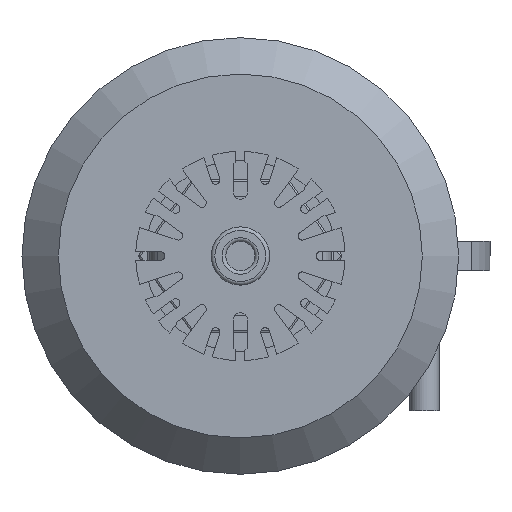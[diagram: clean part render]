
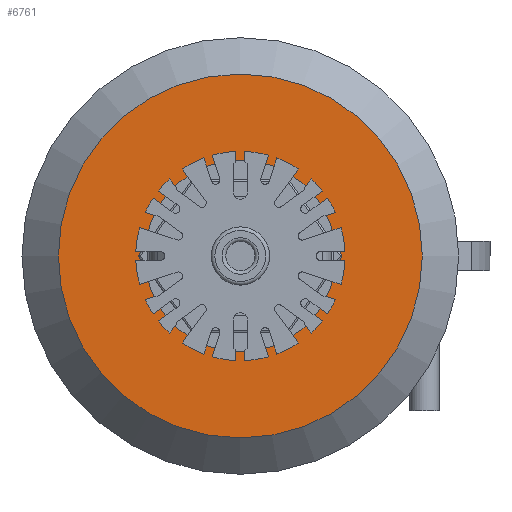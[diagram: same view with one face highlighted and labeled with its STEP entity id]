
A CAD part, front view. The second image highlights one B-rep face of the part: STEP entity #6761.
In plain terms, the highlighted planar face has unit normal (0, -1, 0).
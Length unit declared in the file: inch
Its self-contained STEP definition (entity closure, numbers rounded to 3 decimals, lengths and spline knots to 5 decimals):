
#292=FACE_BOUND('',#975,.T.);
#317=PLANE('',#7253);
#585=FACE_OUTER_BOUND('',#974,.T.);
#974=EDGE_LOOP('',(#4367,#4368));
#975=EDGE_LOOP('',(#4369,#4370));
#2283=CIRCLE('',#7251,1.25);
#2284=CIRCLE('',#7252,1.25);
#2285=CIRCLE('',#7254,0.6575);
#2286=CIRCLE('',#7255,0.6575);
#2696=VERTEX_POINT('',#9978);
#2697=VERTEX_POINT('',#9979);
#2698=VERTEX_POINT('',#9984);
#2699=VERTEX_POINT('',#9985);
#3343=EDGE_CURVE('',#2696,#2697,#2283,.T.);
#3344=EDGE_CURVE('',#2697,#2696,#2284,.T.);
#3346=EDGE_CURVE('',#2698,#2699,#2285,.T.);
#3347=EDGE_CURVE('',#2699,#2698,#2286,.T.);
#4367=ORIENTED_EDGE('',*,*,#3343,.T.);
#4368=ORIENTED_EDGE('',*,*,#3344,.T.);
#4369=ORIENTED_EDGE('',*,*,#3346,.F.);
#4370=ORIENTED_EDGE('',*,*,#3347,.F.);
#6761=ADVANCED_FACE('',(#585,#292),#317,.T.);
#7251=AXIS2_PLACEMENT_3D('',#9980,#8030,#8031);
#7252=AXIS2_PLACEMENT_3D('',#9981,#8032,#8033);
#7253=AXIS2_PLACEMENT_3D('',#9983,#8035,#8036);
#7254=AXIS2_PLACEMENT_3D('',#9986,#8037,#8038);
#7255=AXIS2_PLACEMENT_3D('',#9987,#8039,#8040);
#8030=DIRECTION('center_axis',(0.,-1.,0.));
#8031=DIRECTION('ref_axis',(1.,0.,0.));
#8032=DIRECTION('center_axis',(0.,-1.,0.));
#8033=DIRECTION('ref_axis',(1.,0.,0.));
#8035=DIRECTION('center_axis',(0.,-1.,0.));
#8036=DIRECTION('ref_axis',(-1.,0.,0.));
#8037=DIRECTION('center_axis',(0.,-1.,0.));
#8038=DIRECTION('ref_axis',(-1.,0.,0.));
#8039=DIRECTION('center_axis',(0.,-1.,0.));
#8040=DIRECTION('ref_axis',(-1.,0.,0.));
#9978=CARTESIAN_POINT('',(-1.25,1.8,0.));
#9979=CARTESIAN_POINT('',(1.25,1.8,0.));
#9980=CARTESIAN_POINT('Origin',(0.,1.8,0.));
#9981=CARTESIAN_POINT('Origin',(0.,1.8,0.));
#9983=CARTESIAN_POINT('Origin',(-0.6575,1.8,0.));
#9984=CARTESIAN_POINT('',(-0.6575,1.8,0.));
#9985=CARTESIAN_POINT('',(0.6575,1.8,0.));
#9986=CARTESIAN_POINT('Origin',(0.,1.8,0.));
#9987=CARTESIAN_POINT('Origin',(0.,1.8,0.));
